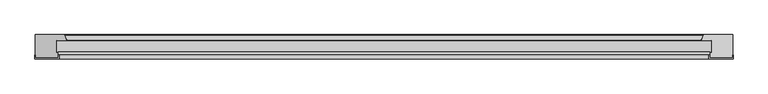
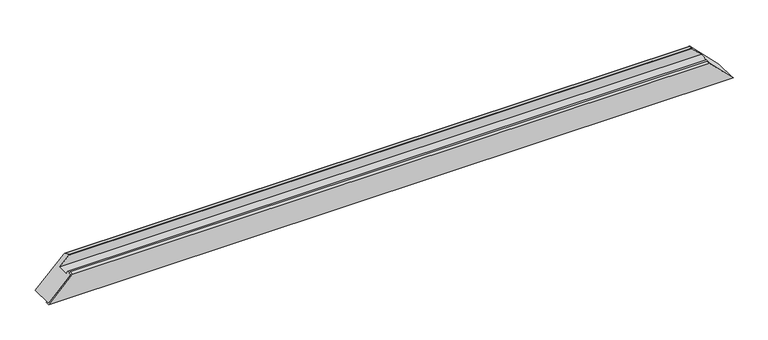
"""IFC4 building model written with IfcOpenShell, lengths in millimetres: proxy geometry, Weiku - Montante - Caixilho 02.2.01.005 : Weiku - Montante - Caixilho 02.2.01.005."""

from ifc_helpers import new_model, si_unit, frame, origin, place, context, project, spatial, ellipse_curve, faceted_brep, source, transform, mapped, element, save
from ifc_brep_helpers import plane_surface, cylinder_surface, advanced_brep


def generic_models_caabbe65(model_context):
    return source(origin(), model_context, "Body", "SolidModel", [
        faceted_brep([(-747.0, -43.5137905, 0.0), (-748.0, -43.5137905, -1.0), (-748.0, -52.0, -1.0), (-696.0, -52.0, 51.0), (-696.0, -43.5137905, 51.0), (-698.0, -43.5137905, 49.0), (-698.0, -50.0, 49.0), (-747.0, -50.0, 0.0), (747.0, -50.0, 0.0), (698.0, -50.0, 49.0), (698.0, -43.5137905, 49.0), (696.0, -43.5137905, 51.0), (696.0, -52.0, 51.0), (748.0, -52.0, -1.0), (748.0, -43.5137905, -1.0), (747.0, -43.5137905, 0.0)], [[[0, 1, 2, 3, 4, 5, 6, 7]], [[8, 9, 10, 11, 12, 13, 14, 15]], [[7, 8, 15, 0]], [[6, 9, 8, 7]], [[5, 10, 9, 6]], [[4, 11, 10, 5]], [[3, 12, 11, 4]], [[2, 13, 12, 3]], [[1, 14, 13, 2]], [[0, 15, 14, 1]]]),
        advanced_brep(
        [(-701.0, -12.5, 46.0), (701.0, -12.5, 46.0), (680.8909676, -12.5, 66.1090324), (-680.8909676, -12.5, 66.1090324), (-701.0, -37.8314286, 46.0), (701.0, -37.8314286, 46.0), (-698.0, -37.027581, 49.0), (698.0, -37.027581, 49.0), (-698.0, -50.0, 49.0), (698.0, -50.0, 49.0), (747.0, -50.0, 0.0), (-747.0, -50.0, 0.0), (-747.0, 0.0, 0.0), (747.0, 0.0, 0.0), (-685.4997332, 0.0, 61.5002668), (685.4997332, 0.0, 61.5002668), (-680.118227, -11.4929448, 66.881773), (680.118227, -11.4929448, 66.881773), (682.6019557, -2.2235429, 64.3980443), (-682.6019557, -2.2235429, 64.3980443)],
        [
            (0, 1),
            (1, 2),
            (2, 3),
            (3, 0),
            (4, 5),
            (5, 1),
            (0, 4),
            (6, 7),
            (7, 5),
            (4, 6),
            (8, 9),
            (9, 7),
            (6, 8),
            (10, 9),
            (8, 11),
            (11, 10),
            (11, 12),
            (12, 13),
            (13, 10),
            (12, 14),
            (14, 15),
            (15, 13),
            (16, 17),
            (17, 18),
            (18, 19),
            (19, 16),
            (3, 16, ellipse_curve(frame((-680.8909676, -11.7, 66.1090324), z_axis=(-0.7071067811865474, 0.0, 0.7071067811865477), x_axis=(-0.7071067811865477, 0.0, -0.7071067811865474)), 1.1313708, 0.8)),
            (19, 14, ellipse_curve(frame((-685.4997332, -3.0, 61.5002668), z_axis=(-0.7071067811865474, 0.0, 0.7071067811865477), x_axis=(-0.7071067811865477, 0.0, -0.7071067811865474)), 4.2426407, 3.0)),
            (15, 18, ellipse_curve(frame((685.4997332, -3.0, 61.5002668), z_axis=(0.7071067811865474, 0.0, 0.7071067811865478), x_axis=(-0.7071067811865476, 0.0, 0.7071067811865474)), 4.2426407, 3.0)),
            (17, 2, ellipse_curve(frame((680.8909676, -11.7, 66.1090324), z_axis=(0.7071067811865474, 0.0, 0.7071067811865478), x_axis=(-0.7071067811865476, 0.0, 0.7071067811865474)), 1.1313708, 0.8)),
        ],
        [
            plane_surface(frame((-747.0, -12.5, 66.1090324), z_axis=(0.0, -1.0, 0.0), x_axis=(1.0, 0.0, 0.0))),
            plane_surface(frame((-747.0, -12.5, 46.0), z_axis=(0.0, 0.0, 1.0), x_axis=(1.0, 0.0, 0.0))),
            plane_surface(frame((-747.0, -37.8314286, 46.0), z_axis=(0.0, 0.9659258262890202, -0.2588190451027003), x_axis=(1.0, 0.0, 0.0))),
            plane_surface(frame((-747.0, -37.027581, 49.0), z_axis=(0.0, 0.0, 1.0), x_axis=(1.0, 0.0, 0.0))),
            plane_surface(frame((-747.0, -50.0, 49.0), z_axis=(0.0, -1.0, 0.0), x_axis=(1.0, 0.0, 0.0))),
            plane_surface(frame((-747.0, -50.0, 0.0), z_axis=(0.0, 0.0, -1.0), x_axis=(1.0, 0.0, 0.0))),
            plane_surface(frame((-747.0, 0.0, 0.0), z_axis=(0.0, 1.0, 0.0), x_axis=(1.0, 0.0, 0.0))),
            plane_surface(frame((-747.0, -2.2235429, 64.3980443), z_axis=(0.0, 0.2588190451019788, 0.9659258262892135), x_axis=(1.0, 0.0, 0.0))),
            plane_surface(frame((-817.0, 15.0, -70.0), z_axis=(-0.7071067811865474, 0.0, 0.7071067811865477), x_axis=(0.0, -1.0, 0.0))),
            plane_surface(frame((677.0, 15.0, 70.0), z_axis=(0.7071067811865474, 0.0, 0.7071067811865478), x_axis=(0.0, -1.0, 0.0))),
            cylinder_surface(frame((-747.0, -11.7, 66.1090324), z_axis=(-1.0, 0.0, 0.0), x_axis=(0.0, -1.0, 0.0)), 0.8),
            cylinder_surface(frame((-747.0, -3.0, 61.5002668), z_axis=(-1.0, 0.0, 0.0), x_axis=(0.0, -1.0, 0.0)), 3.0),
        ],
        [
            (0, [[1, 2, 3, 4]]),
            (1, [[5, 6, -1, 7]]),
            (2, [[8, 9, -5, 10]]),
            (3, [[11, 12, -8, 13]]),
            (4, [[14, -11, 15, 16]]),
            (5, [[17, 18, 19, -16]]),
            (6, [[20, 21, 22, -18]]),
            (7, [[23, 24, 25, 26]]),
            (8, [[27, -26, 28, -20, -17, -15, -13, -10, -7, -4]]),
            (9, [[-6, -9, -12, -14, -19, -22, 29, -24, 30, -2]]),
            (10, [[-3, -30, -23, -27]]),
            (11, [[-25, -29, -21, -28]]),
        ],
    ),
    ])


if __name__ == "__main__":
    model = new_model("IFC4")
    model_context = context("Model", 3, world=origin())
    ifc_project = project(units=[si_unit("LENGTHUNIT", "METRE", prefix="MILLI")], contexts=[model_context])
    site = spatial("IfcSite", under=ifc_project)
    building = spatial("IfcBuilding", under=site)
    placement = place(None, origin())
    generic_models_shape = generic_models_caabbe65(model_context)
    element("IfcBuildingElementProxy", 1, Name="Weiku - Montante - Caixilho 02.2.01.005 : Weiku - Montante - Caixilho 02.2.01.005", ObjectType="Weiku - Montante - Caixilho 02.2.01.005 : Weiku - Montante - Caixilho 02.2.01.005", at=placement, inside=building, context=model_context, shape_type="MappedRepresentation", body=[
        mapped(generic_models_shape, transform((0.0, 0.0, 0.0), x_axis=(1.0, 0.0, 0.0), y_axis=(0.0, 1.0, 0.0), z_axis=(0.0, 0.0, 1.0))),
    ])
    save(model, "model.ifc")
